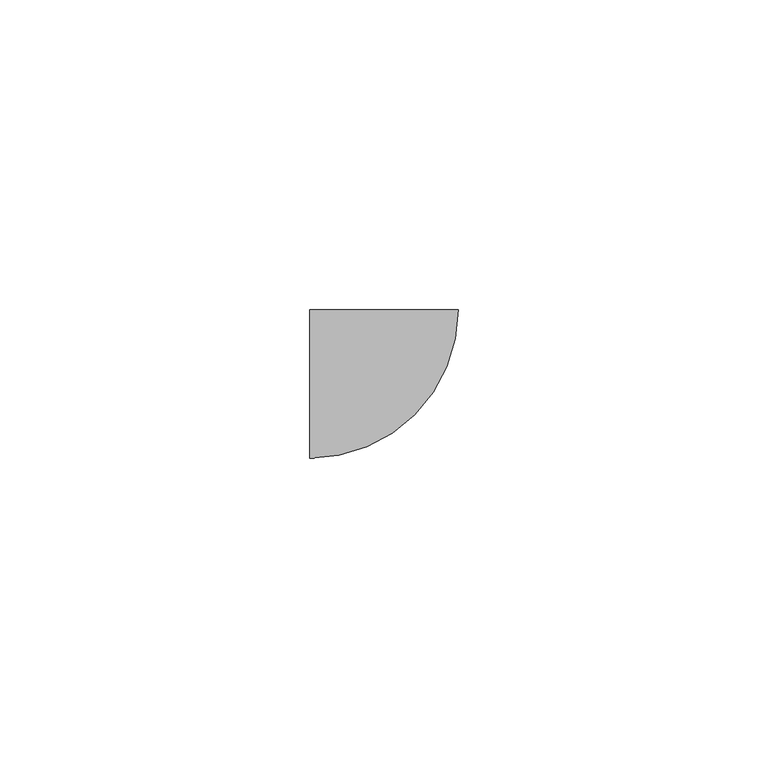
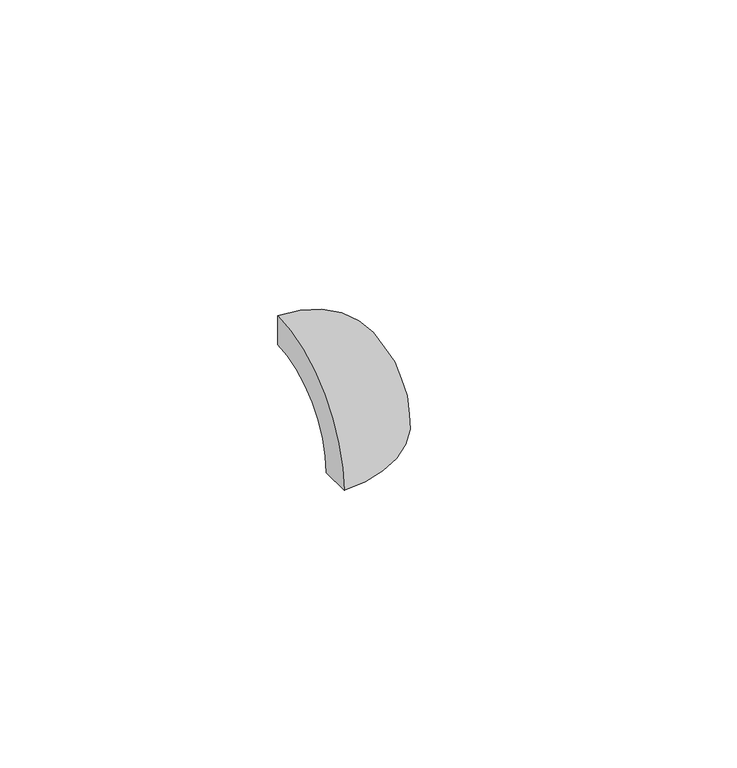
"""IFC4 building model written with IfcOpenShell, lengths in millimetres: proxy geometry, EXAGRES - Round Corner : Nubia_3x3cm."""

from ifc_helpers import new_model, si_unit, point, frame, origin, place, context, project, spatial, circle_curve, ellipse_curve, trimmed, source, transform, mapped, element, save
from ifc_brep_helpers import plane_surface, revolved_surface, advanced_brep


def generic_models_d871d5da(model_context):
    return source(origin(), model_context, "Body", "AdvancedBrep", [
        advanced_brep(
        [(-23.9, 6.4, -23.9), (-6.4, 23.9, -23.9), (0.0, 23.9, -23.9), (-23.9, 0.0, -23.9), (-23.9, 23.9, 0.0), (-23.9, 23.9, -6.4)],
        [
            (0, 1, circle_curve(frame((-23.9, 23.9, -23.9), z_axis=(0.0, 0.0, 1.0), x_axis=(0.0, 1.0, 0.0)), 17.5)),
            (1, 2),
            (2, 3, circle_curve(frame((-23.9, 23.9, -23.9), z_axis=(0.0, 0.0, -1.0), x_axis=(0.0, 1.0, 0.0)), 23.9)),
            (3, 0),
            (3, 4, circle_curve(frame((-23.9, 23.9, -23.9), z_axis=(-1.0, 0.0, 0.0), x_axis=(0.0, 1.0, 0.0)), 23.9)),
            (4, 5),
            (5, 0, circle_curve(frame((-23.9, 23.9, -23.9), z_axis=(1.0, 0.0, 0.0), x_axis=(0.0, 1.0, 0.0)), 17.5)),
            (2, 4, circle_curve(frame((-23.9, 23.9, -23.9), z_axis=(0.0, -1.0, 0.0), x_axis=(1.0, 0.0, 0.0)), 23.9)),
            (1, 5, circle_curve(frame((-23.9, 23.9, -23.9), z_axis=(0.0, -1.0, 0.0), x_axis=(1.0, 0.0, 0.0)), 17.5)),
        ],
        [
            plane_surface(frame((-23.9, -10.6, -23.9), z_axis=(0.0, 0.0, -1.0), x_axis=(1.0, 0.0, 0.0))),
            plane_surface(frame((-23.9, -10.6, -23.9), z_axis=(-1.0, 0.0, 0.0), x_axis=(0.0, 0.0, 1.0))),
            revolved_surface(trimmed(ellipse_curve(frame((-23.9, 23.9, -23.9), z_axis=(0.0, 0.0, 1.0), x_axis=(0.0, 1.0, 0.0)), 23.9, 23.9), [point((-23.9, 0.0, -23.9))], [point((0.0, 23.9, -23.9))], True, "CARTESIAN"), (-23.9, -10.6, -23.9), (0.0, 1.0, 0.0)),
            plane_surface(frame((-23.9, 23.9, -23.9), z_axis=(0.0, 1.0, 0.0), x_axis=(1.0, 0.0, 0.0))),
            revolved_surface(trimmed(ellipse_curve(frame((-23.9, 23.9, -23.9), z_axis=(0.0, 0.0, -1.0), x_axis=(0.0, 1.0, 0.0)), 17.5, 17.5), [point((-6.4, 23.9, -23.9))], [point((-23.9, 6.4, -23.9))], True, "CARTESIAN"), (-23.9, -10.6, -23.9), (0.0, 1.0, 0.0)),
        ],
        [
            (0, [[1, 2, 3, 4]]),
            (1, [[5, 6, 7, -4]]),
            (2, [[-3, 8, -5]]),
            (3, [[-8, -2, 9, -6]]),
            (4, [[-9, -1, -7]]),
        ],
    ),
    ])


if __name__ == "__main__":
    model = new_model("IFC4")
    model_context = context("Model", 3, world=origin())
    ifc_project = project(units=[si_unit("LENGTHUNIT", "METRE", prefix="MILLI")], contexts=[model_context])
    site = spatial("IfcSite", under=ifc_project)
    building = spatial("IfcBuilding", under=site)
    placement = place(None, origin())
    generic_models_shape = generic_models_d871d5da(model_context)
    element("IfcBuildingElementProxy", 1, Name="EXAGRES - Round Corner : Nubia_3x3cm", ObjectType="EXAGRES - Round Corner : Nubia_3x3cm", at=placement, inside=building, context=model_context, shape_type="MappedRepresentation", body=[
        mapped(generic_models_shape, transform((0.0, 0.0, 0.0), x_axis=(1.0, 0.0, 0.0), y_axis=(0.0, 1.0, 0.0), z_axis=(0.0, 0.0, 1.0))),
    ])
    save(model, "model.ifc")
